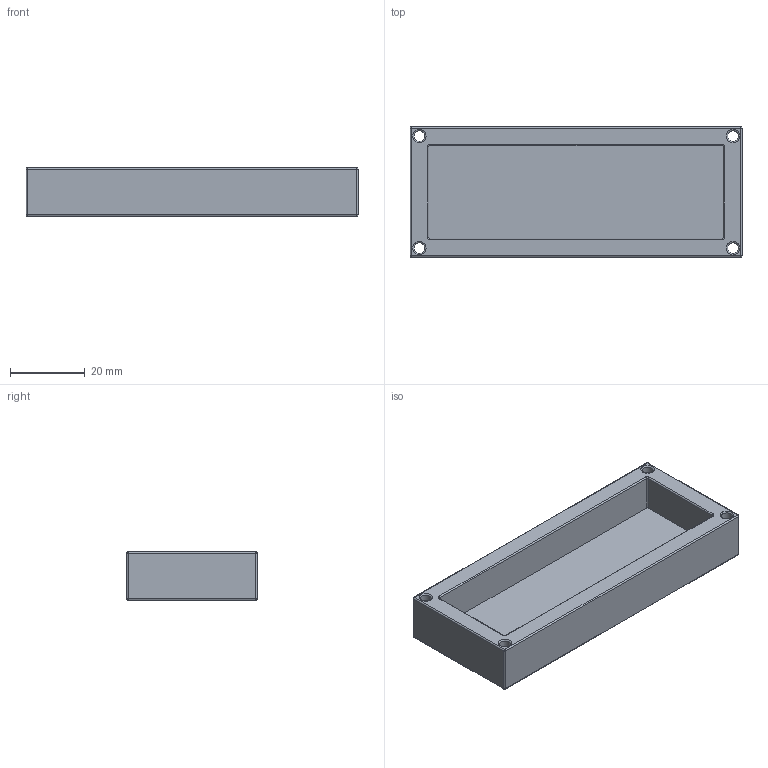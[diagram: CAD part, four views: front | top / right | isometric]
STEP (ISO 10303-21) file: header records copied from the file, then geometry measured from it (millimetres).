
FILE_DESCRIPTION(('HOOPS Exchange Step'),'2;1');
FILE_NAME('/Users/ruben_sutton29/Library/Containers/com.shapr3d.shapr/Data/tmp/export/temp_export','2026-03-03T20:23:53+11:00',('ruben_sutton29'),('Shapr3D Limited'),'HOOPS Exchange 2025.9','Shapr3D','Authorized');
FILE_SCHEMA( ('AP242_MANAGED_MODEL_BASED_3D_ENGINEERING_MIM_LF {1 0 10303 442 1 1 4}') );
Length unit declared in the file: millimetre
Products named in the file (1): Body 02
Bounding box: 88.9 x 34.9 x 13 mm (x, y, z)
Volume: 20317.6 mm3; surface area: 11904.2 mm2
Topology: 1 solids, 1 shells, 68 faces, 168 edges, 96 vertices
Faces by surface type: cylinder 28, plane 16, torus 16, sphere 8
Full cylindrical faces by diameter (mm): 2.9 x4
Entity records: 2040 total; most frequent: DIRECTION 380, CARTESIAN_POINT 374, ORIENTED_EDGE 320, EDGE_CURVE 160, AXIS2_PLACEMENT_3D 158, VERTEX_POINT 96, CIRCLE 88, EDGE_LOOP 78
